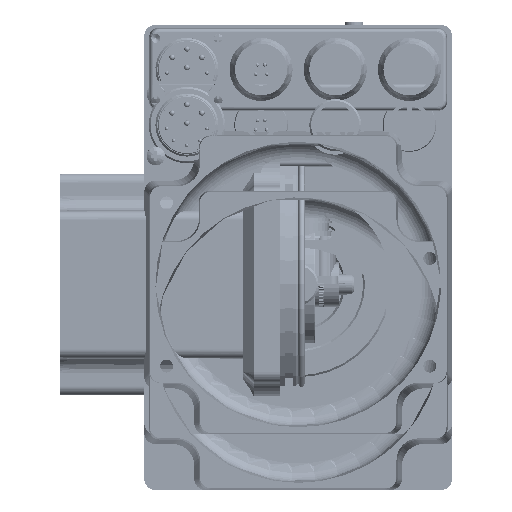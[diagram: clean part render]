
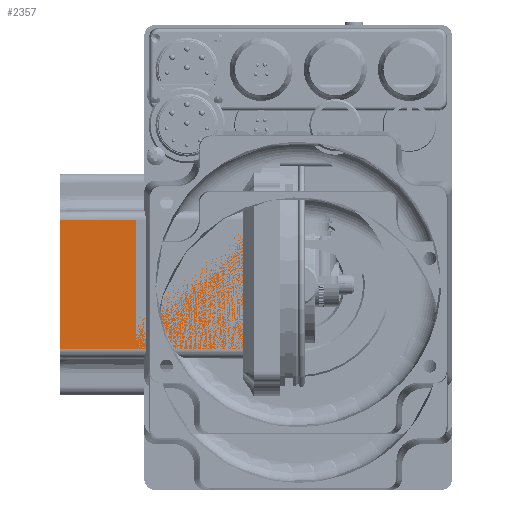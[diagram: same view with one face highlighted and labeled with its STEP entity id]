
A CAD part, front view. The second image highlights one B-rep face of the part: STEP entity #2357.
In plain terms, the highlighted planar face has unit normal (-0.003, -1, 0).
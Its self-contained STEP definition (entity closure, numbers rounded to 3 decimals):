
#2357 = ADVANCED_FACE( '', ( #6367 ), #6368, .T. );
#6367 = FACE_OUTER_BOUND( '', #13006, .T. );
#6368 = PLANE( '', #13007 );
#13006 = EDGE_LOOP( '', ( #31007, #31008, #31009, #31010 ) );
#13007 = AXIS2_PLACEMENT_3D( '', #31011, #31012, #31013 );
#31007 = ORIENTED_EDGE( '', *, *, #43612, .T. );
#31008 = ORIENTED_EDGE( '', *, *, #43613, .T. );
#31009 = ORIENTED_EDGE( '', *, *, #43614, .T. );
#31010 = ORIENTED_EDGE( '', *, *, #43615, .T. );
#31011 = CARTESIAN_POINT( '', ( -6., -30., 0. ) );
#31012 = DIRECTION( '', ( -0.003, -1., 0. ) );
#31013 = DIRECTION( '', ( 1., -0.003, 0. ) );
#43612 = EDGE_CURVE( '', #51020, #51021, #51022, .T. );
#43613 = EDGE_CURVE( '', #51021, #51023, #51024, .T. );
#43614 = EDGE_CURVE( '', #51023, #51025, #51026, .T. );
#43615 = EDGE_CURVE( '', #51025, #51020, #51027, .T. );
#51020 = VERTEX_POINT( '', #71130 );
#51021 = VERTEX_POINT( '', #71131 );
#51022 = LINE( '', #71132, #71133 );
#51023 = VERTEX_POINT( '', #71134 );
#51024 = LINE( '', #71135, #71136 );
#51025 = VERTEX_POINT( '', #71137 );
#51026 = LINE( '', #71138, #71139 );
#51027 = LINE( '', #71140, #71141 );
#71130 = CARTESIAN_POINT( '', ( -64.25, -29.831, -17.331 ) );
#71131 = CARTESIAN_POINT( '', ( -6.75, -29.998, -17.498 ) );
#71132 = CARTESIAN_POINT( '', ( -5.993, -30., -17.5 ) );
#71133 = VECTOR( '', #82753, 1000. );
#71134 = CARTESIAN_POINT( '', ( -6.75, -29.998, 17.498 ) );
#71135 = CARTESIAN_POINT( '', ( -6.75, -29.998, 0. ) );
#71136 = VECTOR( '', #82754, 1000. );
#71137 = CARTESIAN_POINT( '', ( -64.25, -29.831, 17.331 ) );
#71138 = CARTESIAN_POINT( '', ( -89.993, -29.756, 17.256 ) );
#71139 = VECTOR( '', #82755, 1000. );
#71140 = CARTESIAN_POINT( '', ( -64.25, -29.831, 0. ) );
#71141 = VECTOR( '', #82756, 1000. );
#82753 = DIRECTION( '', ( 1., -0.003, -0.003 ) );
#82754 = DIRECTION( '', ( 0., 0., 1. ) );
#82755 = DIRECTION( '', ( -1., 0.003, -0.003 ) );
#82756 = DIRECTION( '', ( 0., 0., -1. ) );
